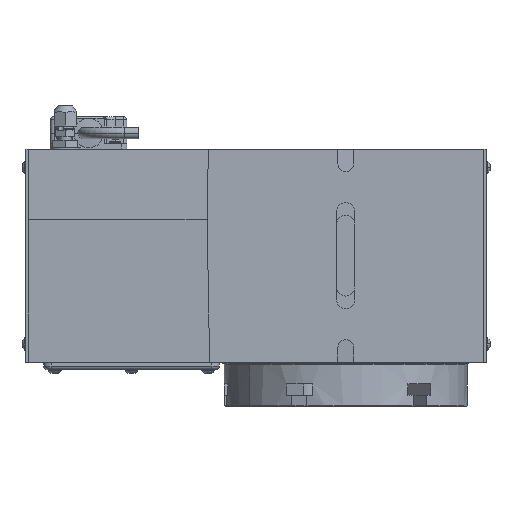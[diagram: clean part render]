
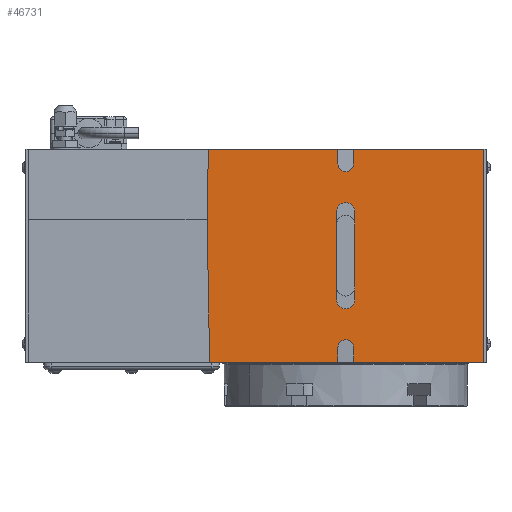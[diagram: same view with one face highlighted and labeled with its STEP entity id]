
A CAD part, front view. The second image highlights one B-rep face of the part: STEP entity #46731.
In plain terms, the highlighted planar face has unit normal (0, -1, 0).
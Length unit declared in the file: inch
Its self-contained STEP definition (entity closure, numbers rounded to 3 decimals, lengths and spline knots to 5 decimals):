
#121 = CARTESIAN_POINT ( 'NONE',  ( 0.265, -6., -3.625 ) ) ;
#190 = CARTESIAN_POINT ( 'NONE',  ( 4.7, -6., 0. ) ) ;
#216 = CIRCLE ( 'NONE', #7067, 0.265 ) ;
#309 = AXIS2_PLACEMENT_3D ( 'NONE', #3683, #12260, #44456 ) ;
#491 = AXIS2_PLACEMENT_3D ( 'NONE', #53076, #8780, #29471 ) ;
#776 = LINE ( 'NONE', #35080, #36633 ) ;
#823 = CARTESIAN_POINT ( 'NONE',  ( 0.315, -6., 1.495 ) ) ;
#1055 = VERTEX_POINT ( 'NONE', #12503 ) ;
#1096 = LINE ( 'NONE', #823, #35433 ) ;
#1626 = CARTESIAN_POINT ( 'NONE',  ( -0.265, -6., 0. ) ) ;
#1631 = CARTESIAN_POINT ( 'NONE',  ( 0.265, -6., 0. ) ) ;
#2480 = FACE_BOUND ( 'NONE', #36675, .T. ) ;
#2507 = EDGE_CURVE ( 'NONE', #9008, #39770, #11864, .T. ) ;
#2508 = CARTESIAN_POINT ( 'NONE',  ( -4.715, -6., 1.235 ) ) ;
#2843 = VECTOR ( 'NONE', #38502, 39.37008 ) ;
#3011 = CARTESIAN_POINT ( 'NONE',  ( 0., -6., -3.625 ) ) ;
#3683 = CARTESIAN_POINT ( 'NONE',  ( 0., -6., -1.495 ) ) ;
#4793 = DIRECTION ( 'NONE',  ( -0.017, 0., 1. ) ) ;
#4914 = EDGE_CURVE ( 'NONE', #38888, #13763, #26990, .T. ) ;
#5045 = CARTESIAN_POINT ( 'NONE',  ( 0., -6., -3.125 ) ) ;
#5092 = LINE ( 'NONE', #1626, #12113 ) ;
#6017 = EDGE_CURVE ( 'NONE', #1055, #38888, #776, .T. ) ;
#6022 = EDGE_CURVE ( 'NONE', #25753, #33935, #45186, .T. ) ;
#7067 = AXIS2_PLACEMENT_3D ( 'NONE', #5045, #50676, #46387 ) ;
#7442 = LINE ( 'NONE', #190, #48393 ) ;
#8310 = EDGE_CURVE ( 'NONE', #24080, #45861, #45039, .T. ) ;
#8780 = DIRECTION ( 'NONE',  ( 0., 1., 0. ) ) ;
#8893 = DIRECTION ( 'NONE',  ( 0., 0., 1. ) ) ;
#9008 = VERTEX_POINT ( 'NONE', #19402 ) ;
#9123 = ORIENTED_EDGE ( 'NONE', *, *, #19914, .T. ) ;
#9417 = VERTEX_POINT ( 'NONE', #33484 ) ;
#9495 = VECTOR ( 'NONE', #46312, 39.37008 ) ;
#9948 = DIRECTION ( 'NONE',  ( 0., 0., 1. ) ) ;
#10027 = CARTESIAN_POINT ( 'NONE',  ( -0.265, -6., 3.125 ) ) ;
#10135 = CARTESIAN_POINT ( 'NONE',  ( 0.315, -6., -1.495 ) ) ;
#10604 = EDGE_CURVE ( 'NONE', #39770, #18737, #46728, .T. ) ;
#11051 = VERTEX_POINT ( 'NONE', #16835 ) ;
#11439 = CARTESIAN_POINT ( 'NONE',  ( 0.315, -6., 1.495 ) ) ;
#11864 = LINE ( 'NONE', #3011, #46281 ) ;
#11971 = LINE ( 'NONE', #16506, #22741 ) ;
#12113 = VECTOR ( 'NONE', #30104, 39.37008 ) ;
#12190 = CARTESIAN_POINT ( 'NONE',  ( 0.265, -6., 3.125 ) ) ;
#12260 = DIRECTION ( 'NONE',  ( 0., -1., 0. ) ) ;
#12503 = CARTESIAN_POINT ( 'NONE',  ( -4.63017, -6., -3.625 ) ) ;
#12575 = CARTESIAN_POINT ( 'NONE',  ( 0.265, -6., -3.125 ) ) ;
#12678 = ORIENTED_EDGE ( 'NONE', *, *, #31876, .F. ) ;
#13287 = EDGE_CURVE ( 'NONE', #33935, #11051, #31739, .T. ) ;
#13763 = VERTEX_POINT ( 'NONE', #28950 ) ;
#14344 = VERTEX_POINT ( 'NONE', #43814 ) ;
#14477 = EDGE_LOOP ( 'NONE', ( #37106, #31788, #47226, #27246, #32428, #48464, #24145, #12678, #9123, #41835, #50511, #44126, #51303 ) ) ;
#15648 = VECTOR ( 'NONE', #32749, 39.37008 ) ;
#15683 = LINE ( 'NONE', #52997, #21140 ) ;
#15778 = VERTEX_POINT ( 'NONE', #52858 ) ;
#16024 = DIRECTION ( 'NONE',  ( 0., 0., -1. ) ) ;
#16397 = EDGE_CURVE ( 'NONE', #13763, #9417, #15683, .T. ) ;
#16506 = CARTESIAN_POINT ( 'NONE',  ( 0., -6., -3.625 ) ) ;
#16835 = CARTESIAN_POINT ( 'NONE',  ( -0.315, -6., -1.495 ) ) ;
#17595 = CARTESIAN_POINT ( 'NONE',  ( 0., -6., 3.625 ) ) ;
#18333 = FACE_OUTER_BOUND ( 'NONE', #14477, .T. ) ;
#18737 = VERTEX_POINT ( 'NONE', #12575 ) ;
#19384 = DIRECTION ( 'NONE',  ( -1., 0., 0. ) ) ;
#19389 = DIRECTION ( 'NONE',  ( 0., -1., 0. ) ) ;
#19402 = CARTESIAN_POINT ( 'NONE',  ( 4.7, -6., -3.625 ) ) ;
#19490 = AXIS2_PLACEMENT_3D ( 'NONE', #46397, #45853, #21440 ) ;
#19859 = ORIENTED_EDGE ( 'NONE', *, *, #13287, .F. ) ;
#19914 = EDGE_CURVE ( 'NONE', #30675, #24080, #36752, .T. ) ;
#20286 = DIRECTION ( 'NONE',  ( -1., 0., 0. ) ) ;
#20430 = CARTESIAN_POINT ( 'NONE',  ( 0., -6., 0. ) ) ;
#21140 = VECTOR ( 'NONE', #48706, 39.37008 ) ;
#21440 = DIRECTION ( 'NONE',  ( 1., 0., 0. ) ) ;
#21630 = LINE ( 'NONE', #17595, #9495 ) ;
#22447 = VERTEX_POINT ( 'NONE', #10135 ) ;
#22664 = CARTESIAN_POINT ( 'NONE',  ( -0.265, -6., 0. ) ) ;
#22741 = VECTOR ( 'NONE', #20286, 39.37008 ) ;
#23411 = DIRECTION ( 'NONE',  ( -1., 0., 0. ) ) ;
#23439 = CIRCLE ( 'NONE', #309, 0.315 ) ;
#23631 = CARTESIAN_POINT ( 'NONE',  ( -0.315, -6., 1.495 ) ) ;
#23890 = EDGE_CURVE ( 'NONE', #11051, #22447, #23439, .T. ) ;
#24080 = VERTEX_POINT ( 'NONE', #12190 ) ;
#24145 = ORIENTED_EDGE ( 'NONE', *, *, #24646, .F. ) ;
#24523 = DIRECTION ( 'NONE',  ( 0., 0., -1. ) ) ;
#24646 = EDGE_CURVE ( 'NONE', #15778, #9008, #7442, .T. ) ;
#25636 = VECTOR ( 'NONE', #9948, 39.37008 ) ;
#25753 = VERTEX_POINT ( 'NONE', #11439 ) ;
#26990 = LINE ( 'NONE', #2508, #2843 ) ;
#27246 = ORIENTED_EDGE ( 'NONE', *, *, #38141, .F. ) ;
#27587 = VECTOR ( 'NONE', #24523, 39.37008 ) ;
#28950 = CARTESIAN_POINT ( 'NONE',  ( -4.67328, -6., 3.625 ) ) ;
#29471 = DIRECTION ( 'NONE',  ( -1., 0., 0. ) ) ;
#30104 = DIRECTION ( 'NONE',  ( 0., 0., 1. ) ) ;
#30675 = VERTEX_POINT ( 'NONE', #39414 ) ;
#31192 = CARTESIAN_POINT ( 'NONE',  ( -4.715, -6., 1.235 ) ) ;
#31541 = PLANE ( 'NONE',  #38174 ) ;
#31739 = LINE ( 'NONE', #23631, #40038 ) ;
#31788 = ORIENTED_EDGE ( 'NONE', *, *, #52366, .F. ) ;
#31876 = EDGE_CURVE ( 'NONE', #30675, #15778, #21630, .T. ) ;
#32344 = CARTESIAN_POINT ( 'NONE',  ( -0.315, -6., 1.495 ) ) ;
#32428 = ORIENTED_EDGE ( 'NONE', *, *, #10604, .F. ) ;
#32749 = DIRECTION ( 'NONE',  ( 0., 0., -1. ) ) ;
#33484 = CARTESIAN_POINT ( 'NONE',  ( -0.265, -6., 3.625 ) ) ;
#33873 = CARTESIAN_POINT ( 'NONE',  ( -0.265, -6., -3.125 ) ) ;
#33935 = VERTEX_POINT ( 'NONE', #32344 ) ;
#35080 = CARTESIAN_POINT ( 'NONE',  ( -4.715, -6., 1.235 ) ) ;
#35433 = VECTOR ( 'NONE', #8893, 39.37008 ) ;
#36633 = VECTOR ( 'NONE', #4793, 39.37008 ) ;
#36675 = EDGE_LOOP ( 'NONE', ( #49262, #38697, #50449, #19859 ) ) ;
#36752 = LINE ( 'NONE', #53105, #15648 ) ;
#37106 = ORIENTED_EDGE ( 'NONE', *, *, #6017, .F. ) ;
#38141 = EDGE_CURVE ( 'NONE', #18737, #48556, #216, .T. ) ;
#38174 = AXIS2_PLACEMENT_3D ( 'NONE', #20430, #19389, #23411 ) ;
#38502 = DIRECTION ( 'NONE',  ( 0.017, 0., 1. ) ) ;
#38697 = ORIENTED_EDGE ( 'NONE', *, *, #44307, .F. ) ;
#38888 = VERTEX_POINT ( 'NONE', #31192 ) ;
#39414 = CARTESIAN_POINT ( 'NONE',  ( 0.265, -6., 3.625 ) ) ;
#39770 = VERTEX_POINT ( 'NONE', #121 ) ;
#40024 = DIRECTION ( 'NONE',  ( 0., 0., -1. ) ) ;
#40038 = VECTOR ( 'NONE', #40024, 39.37008 ) ;
#41835 = ORIENTED_EDGE ( 'NONE', *, *, #8310, .T. ) ;
#43067 = LINE ( 'NONE', #22664, #27587 ) ;
#43346 = EDGE_CURVE ( 'NONE', #45861, #9417, #5092, .T. ) ;
#43814 = CARTESIAN_POINT ( 'NONE',  ( -0.265, -6., -3.625 ) ) ;
#44126 = ORIENTED_EDGE ( 'NONE', *, *, #16397, .F. ) ;
#44307 = EDGE_CURVE ( 'NONE', #22447, #25753, #1096, .T. ) ;
#44456 = DIRECTION ( 'NONE',  ( 1., 0., 0. ) ) ;
#45039 = CIRCLE ( 'NONE', #491, 0.265 ) ;
#45186 = CIRCLE ( 'NONE', #19490, 0.315 ) ;
#45853 = DIRECTION ( 'NONE',  ( 0., -1., 0. ) ) ;
#45861 = VERTEX_POINT ( 'NONE', #10027 ) ;
#46281 = VECTOR ( 'NONE', #19384, 39.37008 ) ;
#46312 = DIRECTION ( 'NONE',  ( 1., 0., 0. ) ) ;
#46387 = DIRECTION ( 'NONE',  ( -1., 0., 0. ) ) ;
#46397 = CARTESIAN_POINT ( 'NONE',  ( 0., -6., 1.495 ) ) ;
#46728 = LINE ( 'NONE', #1631, #25636 ) ;
#46731 = ADVANCED_FACE ( 'NONE', ( #2480, #18333 ), #31541, .T. ) ;
#47226 = ORIENTED_EDGE ( 'NONE', *, *, #49148, .F. ) ;
#48393 = VECTOR ( 'NONE', #16024, 39.37008 ) ;
#48464 = ORIENTED_EDGE ( 'NONE', *, *, #2507, .F. ) ;
#48556 = VERTEX_POINT ( 'NONE', #33873 ) ;
#48706 = DIRECTION ( 'NONE',  ( 1., 0., 0. ) ) ;
#49148 = EDGE_CURVE ( 'NONE', #48556, #14344, #43067, .T. ) ;
#49262 = ORIENTED_EDGE ( 'NONE', *, *, #6022, .F. ) ;
#50449 = ORIENTED_EDGE ( 'NONE', *, *, #23890, .F. ) ;
#50511 = ORIENTED_EDGE ( 'NONE', *, *, #43346, .T. ) ;
#50676 = DIRECTION ( 'NONE',  ( 0., -1., 0. ) ) ;
#51303 = ORIENTED_EDGE ( 'NONE', *, *, #4914, .F. ) ;
#52366 = EDGE_CURVE ( 'NONE', #14344, #1055, #11971, .T. ) ;
#52858 = CARTESIAN_POINT ( 'NONE',  ( 4.7, -6., 3.625 ) ) ;
#52997 = CARTESIAN_POINT ( 'NONE',  ( 0., -6., 3.625 ) ) ;
#53076 = CARTESIAN_POINT ( 'NONE',  ( 0., -6., 3.125 ) ) ;
#53105 = CARTESIAN_POINT ( 'NONE',  ( 0.265, -6., 0. ) ) ;
